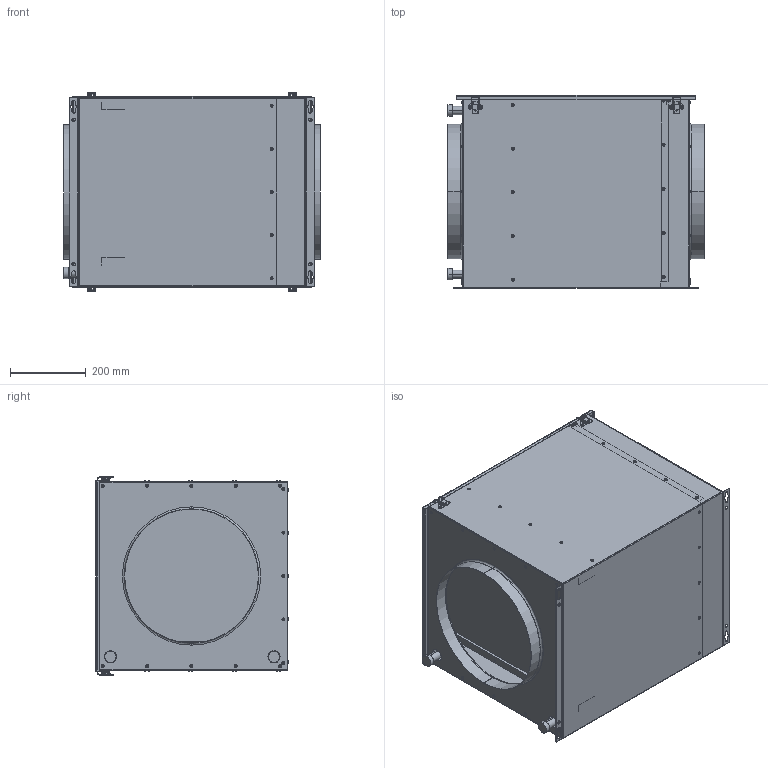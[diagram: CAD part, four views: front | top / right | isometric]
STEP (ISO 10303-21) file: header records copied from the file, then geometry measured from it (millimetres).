
FILE_DESCRIPTION (( 'STEP AP203' ), '1' );
FILE_NAME ('112856-00_FTW355_step.step', '2020-08-26T10:00:53', ( '' ), ( '' ), 'SwSTEP 2.0', 'SolidWorks 2017', '' );
FILE_SCHEMA (( 'CONFIG_CONTROL_DESIGN' ));
Length unit declared in the file: millimetre
Products named in the file (1): 112856-00_FTW355_step
Bounding box: 678 x 509.3 x 527.59 mm (x, y, z)
Surface area: 4691743 mm2 (no closed solid volume)
Topology: 0 solids, 115 shells, 755 faces, 2590 edges, 1836 vertices
Faces by surface type: cylinder 364, plane 197, torus 138, bspline 56
Entity records: 30000 total; most frequent: CARTESIAN_POINT 6959, DIRECTION 5372, ORIENTED_EDGE 3860, EDGE_CURVE 2590, AXIS2_PLACEMENT_3D 2148, VERTEX_POINT 1836, CIRCLE 1448, VECTOR 1076
